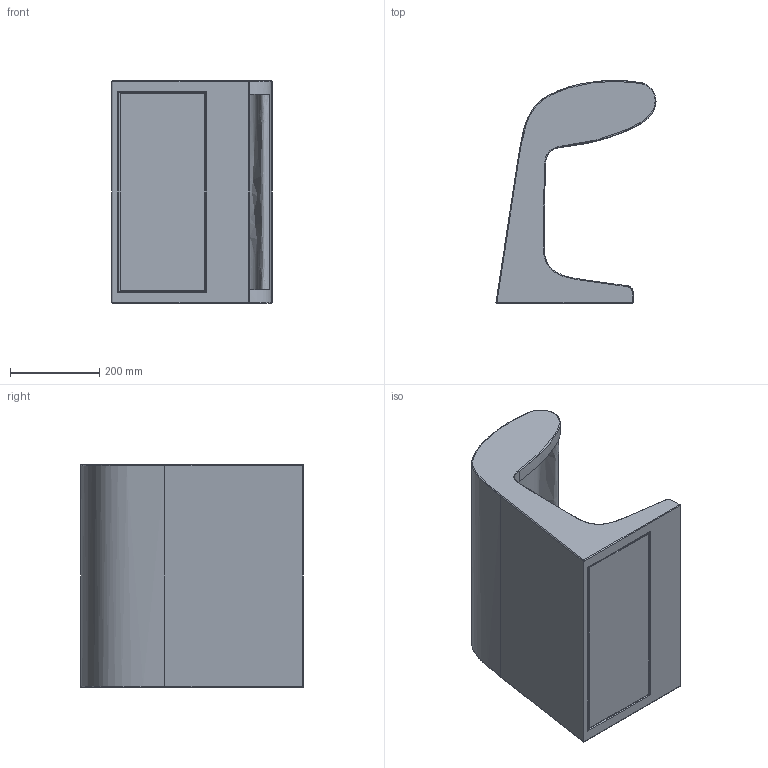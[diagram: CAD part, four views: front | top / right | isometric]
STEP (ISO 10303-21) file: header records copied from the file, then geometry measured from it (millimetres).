
FILE_DESCRIPTION (( 'STEP AP214' ), '1' );
FILE_NAME ('3D_BORNE_BETON_GRANDE.STEP', '2018-02-15T09:44:00', ( 'Utente' ), ( '' ), 'SwSTEP 2.0', 'SolidWorks 2016', '' );
FILE_SCHEMA (( 'AUTOMOTIVE_DESIGN' ));
Length unit declared in the file: millimetre
Products named in the file (3): 010BBG000200_Diffusore a arco-1^3D_BORNE_BETON_GRANDE; Group1^3D_BORNE_BETON_GRANDE; 3D_BORNE_BETON_GRANDE
Assembly tree (2 placements, depth 2):
  3D_BORNE_BETON_GRANDE
    Group1^3D_BORNE_BETON_GRANDE
    010BBG000200_Diffusore a arco-1^3D_BORNE_BETON_GRANDE
Bounding box: 359.3 x 500.34 x 500 mm (x, y, z)
Volume: 23485668.7 mm3; surface area: 1607210.8 mm2
Topology: 3 solids, 3 shells, 92 faces, 218 edges, 132 vertices
Faces by surface type: plane 32, cylinder 30, bspline 20, sphere 6, torus 4
Entity records: 5590 total; most frequent: CARTESIAN_POINT 3550, ORIENTED_EDGE 428, DIRECTION 362, EDGE_CURVE 214, VERTEX_POINT 130, AXIS2_PLACEMENT_3D 129, VECTOR 104, LINE 104
